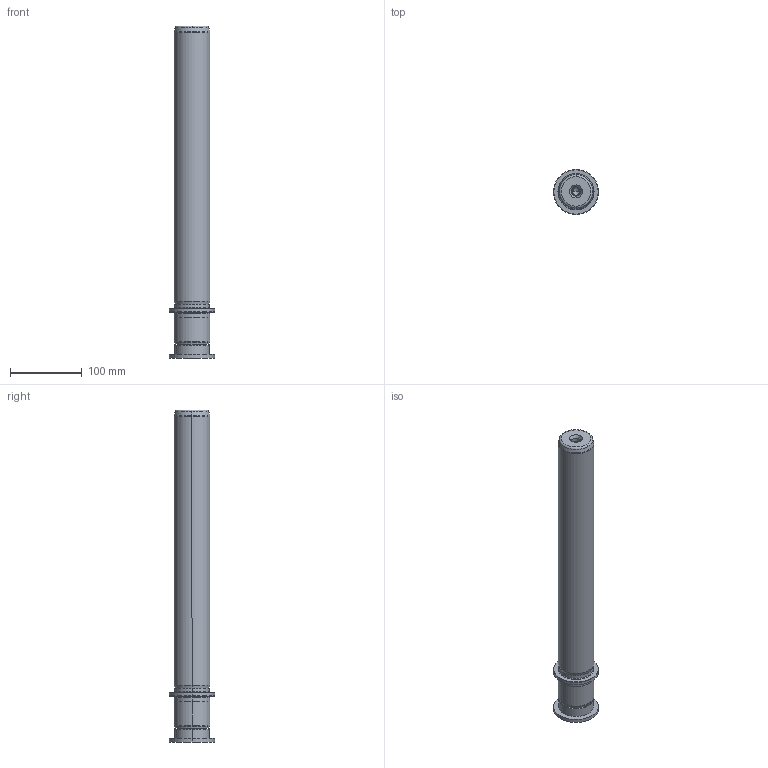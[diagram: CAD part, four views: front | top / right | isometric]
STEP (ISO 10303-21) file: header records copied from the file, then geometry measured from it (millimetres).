
FILE_DESCRIPTION((''),'2;1');
FILE_NAME('P22_050_400.stp','2009-11-02T10:53:05',(''),(''),'Mechanical Desktop 2009','Mechanical Desktop 2009',', , ');
FILE_SCHEMA(('CONFIG_CONTROL_DESIGN'));
Length unit declared in the file: millimetre
Products named in the file (2): Product; blmdl1
Assembly tree (1 placements, depth 2):
  Product
    blmdl1
Bounding box: 63 x 63 x 464 mm (x, y, z)
Volume: 909162 mm3; surface area: 90548.4 mm2
Topology: 3 solids, 3 shells, 99 faces, 237 edges, 149 vertices
Faces by surface type: cylinder 32, cone 28, plane 19, torus 10, bspline 10
Entity records: 3419 total; most frequent: CARTESIAN_POINT 923, DIRECTION 570, ORIENTED_EDGE 466, AXIS2_PLACEMENT_3D 246, EDGE_CURVE 233, CIRCLE 155, VERTEX_POINT 149, EDGE_LOOP 110
